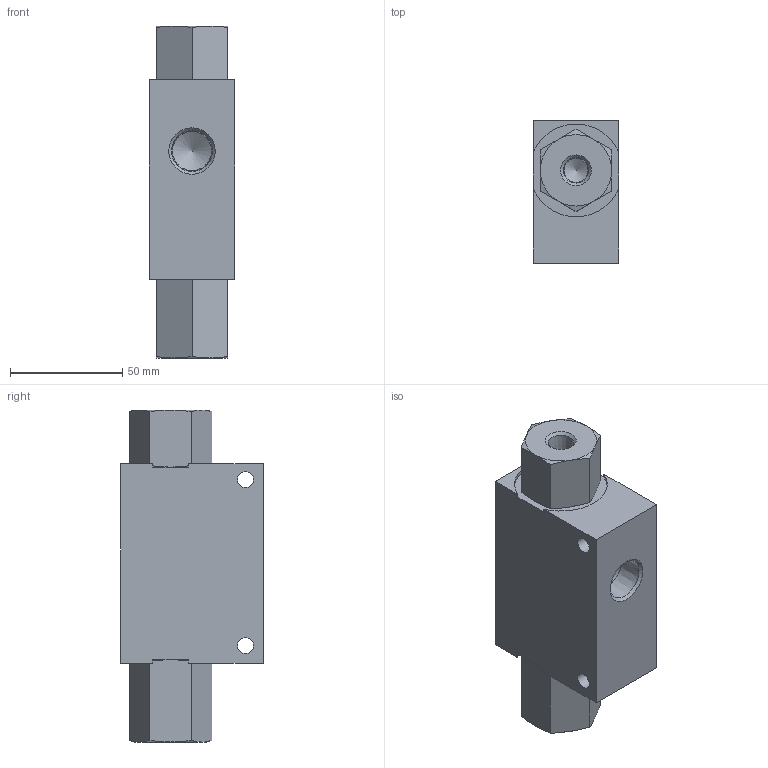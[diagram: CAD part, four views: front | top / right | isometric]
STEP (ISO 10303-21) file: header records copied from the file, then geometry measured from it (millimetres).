
FILE_DESCRIPTION((''),'2;1');
FILE_NAME('C:\Vault\Workspace\z_ShellModels\Misc_RD_RV\RD-1650_Shell.stp','2012-03-19T11:48:16',('PetersW'),(''),'Autodesk Inventor 2012','Autodesk Inventor 2012','');
FILE_SCHEMA(('AUTOMOTIVE_DESIGN { 1 0 10303 214 1 1 1 1 }'));
Length unit declared in the file: inch
Products named in the file (1): Part3
Bounding box: 38.1 x 63.5 x 147.73 mm (x, y, z)
Volume: 237195.3 mm3; surface area: 38579.4 mm2
Topology: 1 solids, 2 shells, 150 faces, 372 edges, 240 vertices
Faces by surface type: plane 85, cone 33, bspline 22, cylinder 10
Full cylindrical faces by diameter (mm): 7.137 x2, 10.719 x1, 12.7 x1, 17.475 x2
Entity records: 4495 total; most frequent: CARTESIAN_POINT 1112, ORIENTED_EDGE 696, DIRECTION 567, EDGE_CURVE 348, VERTEX_POINT 231, VECTOR 203, LINE 203, EDGE_LOOP 183
